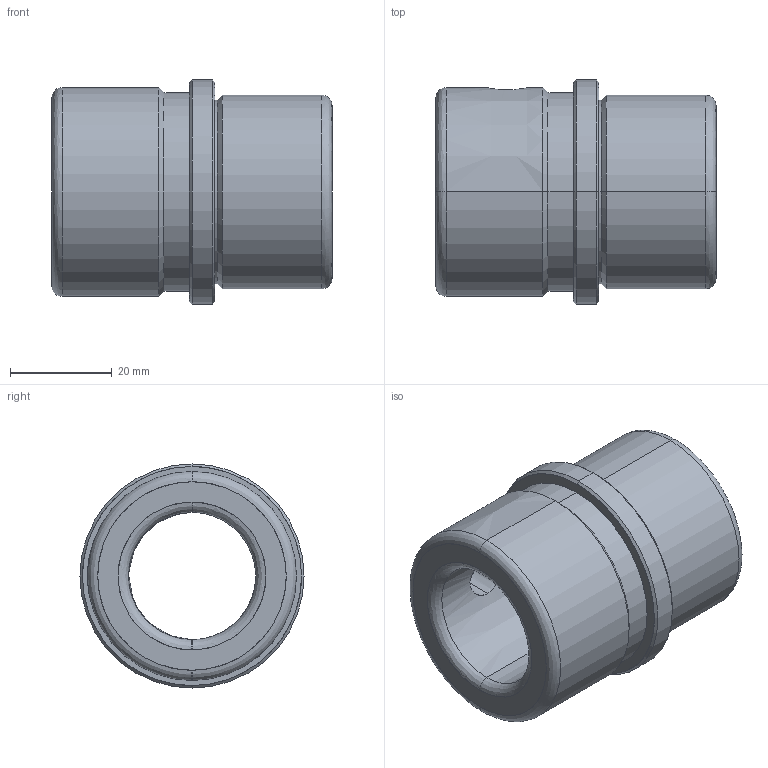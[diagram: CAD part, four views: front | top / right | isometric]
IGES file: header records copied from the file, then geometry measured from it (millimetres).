
Start section: START RECORD GO HERE.
Global section: file name: FAMO-SF1-C25 x 55.igs; native system: DASSAULT SYSTEMES CATIA V5 R20 - www.3ds.com; preprocessor: CATIA Version 5 Release 20 ; author: Utente; organization: NB04-ASUS; date: 20210106.175122; units: millimetre
Bounding box: 55 x 44 x 44 mm (x, y, z)
Surface area: 13433.8 mm2 (no closed solid volume)
Topology: 0 solids, 0 shells, 38 faces, 254 edges, 254 vertices
Faces by surface type: revolution 33, plane 5
